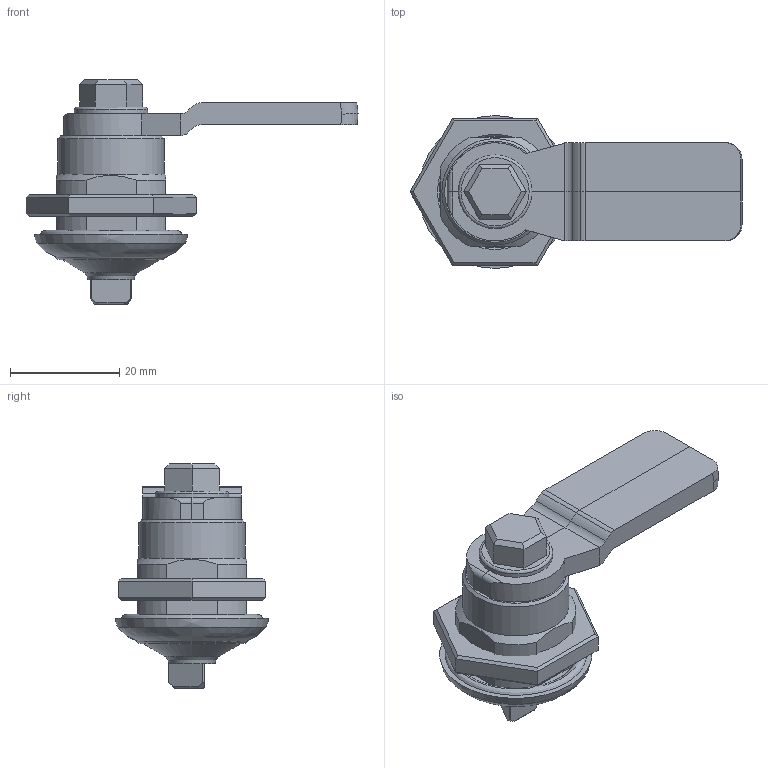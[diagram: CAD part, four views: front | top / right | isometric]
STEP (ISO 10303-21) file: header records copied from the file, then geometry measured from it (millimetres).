
FILE_DESCRIPTION(('STEP AP203'),'2;1');
FILE_NAME('70170-HYG.stp','2016-05-03T17:23:26',(''),(''),'2008.1.107','THINKDESIGN','');
FILE_SCHEMA(('CONFIG_CONTROL_DESIGN'));
Length unit declared in the file: millimetre
Bounding box: 60.84 x 28 x 41.07 mm (x, y, z)
Volume: 14129.9 mm3; surface area: 11229.1 mm2
Topology: 11 solids, 11 shells, 151 faces, 385 edges, 263 vertices
Faces by surface type: plane 65, bspline 44, cylinder 42
Full cylindrical faces by diameter (mm): 10 x2, 12.8 x1, 13.2 x1, 13.5 x1, 16 x3, 18 x1, 19.5 x1, 20 x1, 20.5 x1, 22 x1, 22.1 x1, 26 x1, 26.1 x1
Entity records: 8710 total; most frequent: CARTESIAN_POINT 4861, ORIENTED_EDGE 762, DIRECTION 753, EDGE_CURVE 381, AXIS2_PLACEMENT_3D 282, VERTEX_POINT 255, VECTOR 189, LINE 189
